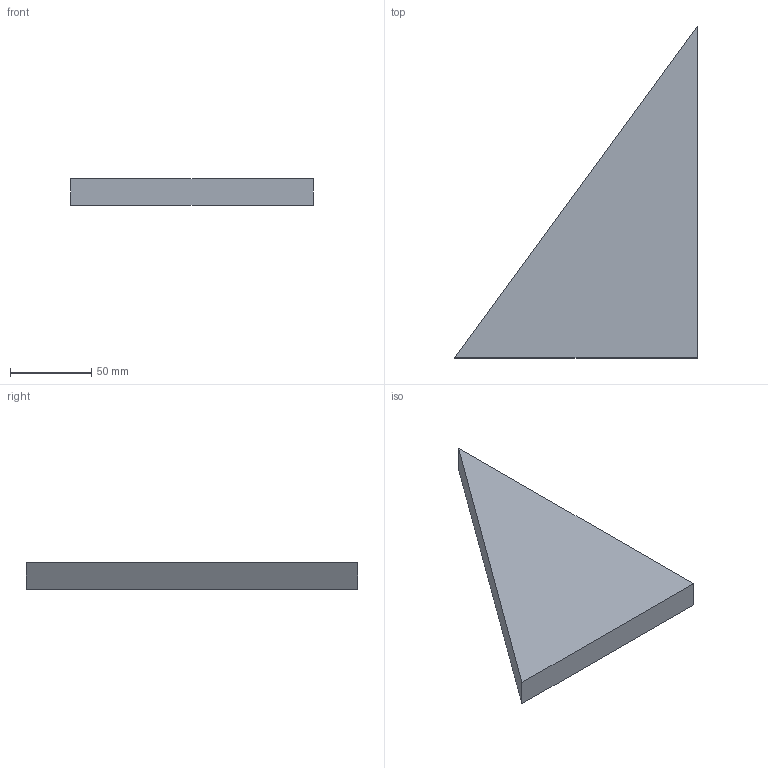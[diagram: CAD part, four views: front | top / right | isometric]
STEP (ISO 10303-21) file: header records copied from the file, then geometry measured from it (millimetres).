
FILE_DESCRIPTION(('Open CASCADE Model'),'2;1');
FILE_NAME('Open CASCADE Shape Model','2026-10-19T10:09:20',('Author'),( 'Open CASCADE'),'Open CASCADE STEP processor 8.0','Open CASCADE 8.0' ,'Unknown');
FILE_SCHEMA(('AUTOMOTIVE_DESIGN { 1 0 10303 214 1 1 1 1 }'));
Length unit declared in the file: millimetre
Products named in the file (1): CORTE_ALETA_2_304_t16_P05 61
Bounding box: 149 x 204 x 16 mm (x, y, z)
Volume: 243168 mm3; surface area: 40085.9 mm2
Topology: 1 solids, 1 shells, 5 faces, 9 edges, 6 vertices
Faces by surface type: plane 5
Entity records: 250 total; most frequent: CARTESIAN_POINT 39, DIRECTION 39, LINE 27, VECTOR 27, ORIENTED_EDGE 18, PCURVE 18, DEFINITIONAL_REPRESENTATION 18, EDGE_CURVE 9
